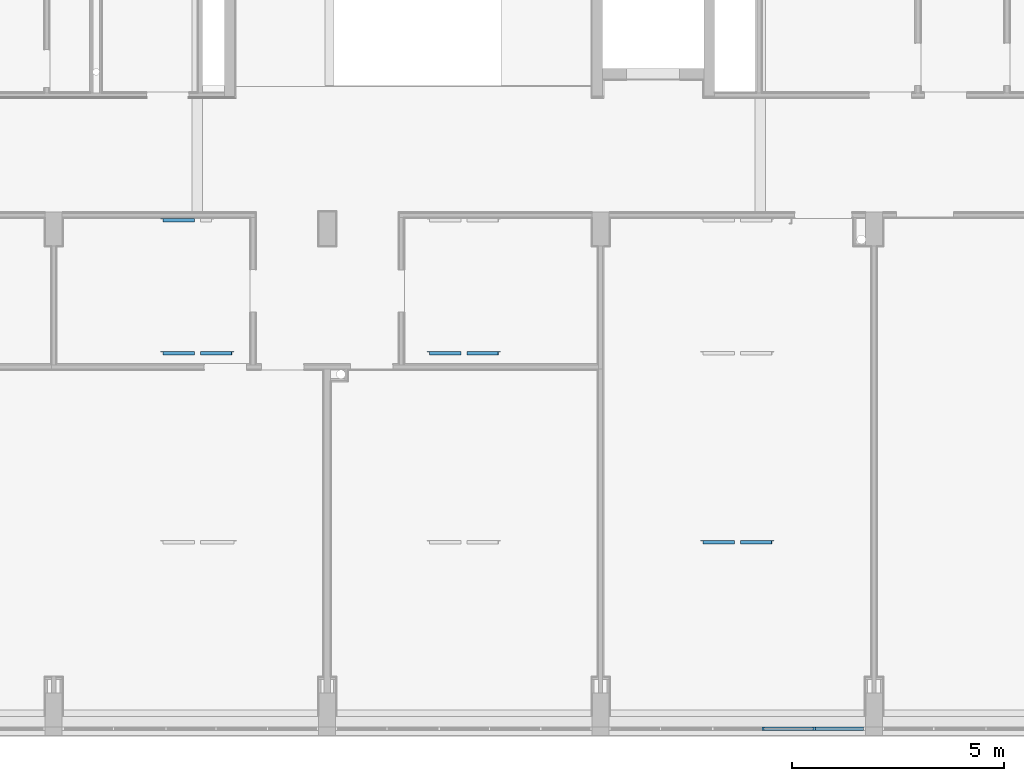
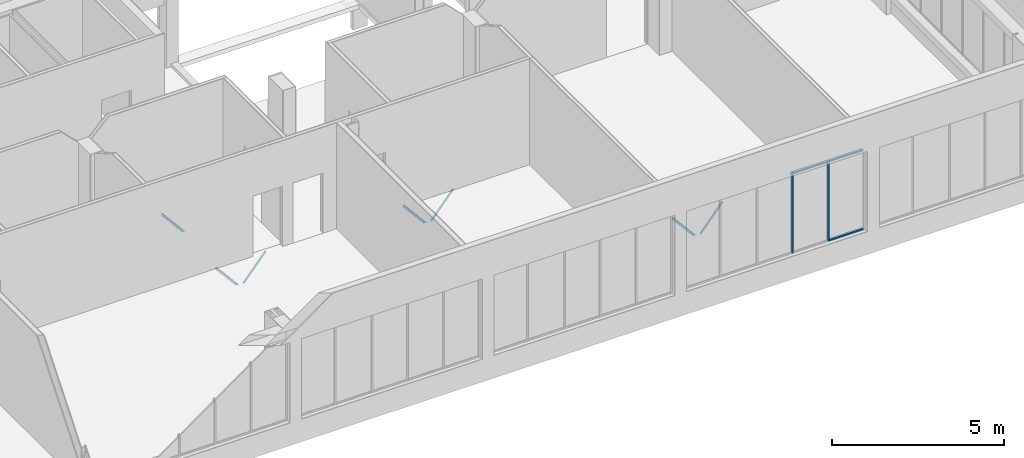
# One storey, part 8 of 29: 7 beams, 5 members, 1 element without a shape of its own.
"""IFC2X3 building model written with IfcOpenShell, lengths in centimetres."""

import ifcopenshell
import ifcopenshell.guid

model = None  # the IFC model being written
_history = None  # IfcOwnerHistory: only IFC2X3 demands one
_inside = {}  # id of a spatial element -> (the spatial element, [elements in it])
_under = {}  # id of a project, library or spatial element -> (it, [spatial elements below it])
_declared = {}  # id of a project -> (the project, [libraries it declares])
_typed = {}  # id of a type object -> (the type object, [elements of that type])
_made_of = {}  # id of a material, layer set ... -> (it, [elements and type objects made of it])


def new_model(schema):
    """Start an empty IFC model of exactly this schema.

    Asked for "IFC4X3", IfcOpenShell would pick the latest addendum, in which some entities
    have other attributes; the version numbers below select the first issue.
    IFC2X3 requires an IfcOwnerHistory on every rooted entity: one is made here for all.
    """
    global model, _history
    if schema == "IFC4X3":
        model = ifcopenshell.file(schema_version=(4, 3, 0, 0))
    else:
        model = ifcopenshell.file(schema=schema)
    _inside.clear()
    _under.clear()
    _declared.clear()
    _typed.clear()
    _made_of.clear()
    _history = None
    if model.schema == "IFC2X3":
        org = make("IfcOrganization", Name="unknown")
        user = make(
            "IfcPersonAndOrganization",
            ThePerson=make("IfcPerson", FamilyName="unknown"),
            TheOrganization=org,
        )
        app = make(
            "IfcApplication",
            ApplicationDeveloper=org,
            Version="unknown",
            ApplicationFullName="unknown",
            ApplicationIdentifier="unknown",
        )
        _history = make(
            "IfcOwnerHistory",
            OwningUser=user,
            OwningApplication=app,
            ChangeAction="ADDED",
            CreationDate=0,
        )
    return model


def make(cls, **values):
    """One entity of the class cls with the attributes given. An attribute that is None is left unset."""
    return model.create_entity(
        cls, **{name: value for name, value in values.items() if value is not None}
    )


def entity(cls, *values):
    """Any entity or typed value of the class cls, its attributes in the order of the schema. None: left unset."""
    e = model.create_entity(cls)
    for i, value in enumerate(values):
        if value is not None:
            e[i] = value
    return e


def rooted(cls, **values):
    """An entity with a GlobalId (a new one), such as an element, a storey or a relation."""
    return make(cls, GlobalId=ifcopenshell.guid.new(), OwnerHistory=_history, **values)


def si_unit(unit_type, name, prefix=None):
    """IfcSIUnit, for example si_unit("LENGTHUNIT", "METRE", prefix="MILLI")."""
    return make("IfcSIUnit", UnitType=unit_type, Prefix=prefix, Name=name)


def converted_unit(unit_type, name, factor, base, dimensions=None, offset=None):
    """IfcConversionBasedUnit, such as the inch: factor (a typed value) times the base unit."""
    return make(
        "IfcConversionBasedUnit"
        if offset is None
        else "IfcConversionBasedUnitWithOffset",
        ConversionOffset=offset,
        Dimensions=None
        if dimensions is None
        else entity("IfcDimensionalExponents", *dimensions),
        UnitType=unit_type,
        Name=name,
        ConversionFactor=make(
            "IfcMeasureWithUnit", ValueComponent=factor, UnitComponent=base
        ),
    )


def derived_unit(unit_type, elements):
    """IfcDerivedUnit: a product of units, each with its exponent."""
    return make(
        "IfcDerivedUnit",
        Elements=[
            make("IfcDerivedUnitElement", Unit=unit, Exponent=power)
            for unit, power in elements
        ],
        UnitType=unit_type,
    )


def assignment(units):
    """IfcUnitAssignment: the units of a project."""
    return None if units is None else make("IfcUnitAssignment", Units=units)


def point(xyz):
    """IfcCartesianPoint."""
    return None if xyz is None else make("IfcCartesianPoint", Coordinates=xyz)


def direction(xyz):
    """IfcDirection."""
    return None if xyz is None else make("IfcDirection", DirectionRatios=xyz)


def frame(location, z_axis=None, x_axis=None):
    """IfcAxis2Placement3D, a coordinate frame: its origin and axes. An axis left out is left unset."""
    return make(
        "IfcAxis2Placement3D",
        Location=point(location),
        Axis=direction(z_axis),
        RefDirection=direction(x_axis),
    )


def frame_2d(location, x_axis=None):
    """IfcAxis2Placement2D, a coordinate frame in the plane: its origin and x axis."""
    return make(
        "IfcAxis2Placement2D", Location=point(location), RefDirection=direction(x_axis)
    )


def origin():
    """The frame at (0, 0, 0) with its axes left unset."""
    return frame((0.0, 0.0, 0.0))


def origin_2d_with_axis():
    """The frame at (0, 0) in the plane with the x axis (1, 0) written out."""
    return frame_2d((0.0, 0.0), x_axis=(1.0, 0.0))


def place(relative_to, where):
    """IfcLocalPlacement: puts the frame where relative to a parent placement (None: the world)."""
    return make(
        "IfcLocalPlacement", PlacementRelTo=relative_to, RelativePlacement=where
    )


def context(
    kind, dimensions, precision=None, world=None, true_north=None, identifier=None
):
    """IfcGeometricRepresentationContext, for example the 3D "Model" context."""
    return make(
        "IfcGeometricRepresentationContext",
        ContextIdentifier=identifier,
        ContextType=kind,
        CoordinateSpaceDimension=dimensions,
        Precision=precision,
        WorldCoordinateSystem=world,
        TrueNorth=true_north,
    )


def subcontext(parent, identifier, kind, view, scale=None):
    """IfcGeometricRepresentationSubContext, for example "Body" below "Model"."""
    return make(
        "IfcGeometricRepresentationSubContext",
        ContextIdentifier=identifier,
        ContextType=kind,
        ParentContext=parent,
        TargetScale=scale,
        TargetView=view,
    )


def project(units=None, contexts=None):
    """IfcProject with its units and contexts."""
    return rooted(
        "IfcProject",
        Name="project",
        RepresentationContexts=contexts,
        UnitsInContext=assignment(units),
    )


def spatial(cls, under=None, at=None, **own):
    """A site, building, storey or space (cls), placed at a placement, below another one or the project."""
    s = rooted(cls, ObjectPlacement=at, **own)
    if under is not None:
        _under.setdefault(under.id(), (under, []))[1].append(s)
    return s


def polyline(points):
    """IfcPolyline through the points."""
    return make("IfcPolyline", Points=[point(p) for p in points])


def circle_curve(where, radius):
    """IfcCircle in the frame where."""
    return make("IfcCircle", Position=where, Radius=radius)


def parameter(value):
    """IfcParameterValue: where a trimmed curve begins or ends, as a parameter of its basis curve."""
    return model.create_entity("IfcParameterValue", value)


def trimmed(basis, trim1, trim2, sense, master):
    """IfcTrimmedCurve: the piece of a basis curve between two trims."""
    return make(
        "IfcTrimmedCurve",
        BasisCurve=basis,
        Trim1=trim1,
        Trim2=trim2,
        SenseAgreement=sense,
        MasterRepresentation=master,
    )


def segment(curve, same_sense, transition):
    """IfcCompositeCurveSegment."""
    return make(
        "IfcCompositeCurveSegment",
        Transition=transition,
        SameSense=same_sense,
        ParentCurve=curve,
    )


def composite_curve(segments, self_intersect=None):
    """IfcCompositeCurve: segments joined end to end."""
    return make("IfcCompositeCurve", Segments=segments, SelfIntersect=self_intersect)


def profile(cls, at=None, kind="AREA", **sizes):
    """A parametric profile (cls). Its sizes go by their IFC names, for example OverallWidth=200.0."""
    return make(cls, ProfileType=kind, Position=at, **sizes)


def rectangle(**sizes):
    """IfcRectangleProfileDef."""
    return profile("IfcRectangleProfileDef", **sizes)


def outline(outer, holes=None, kind="AREA"):
    """IfcArbitraryClosedProfileDef: a profile drawn as a closed curve; with holes, ...WithVoids."""
    if holes is None:
        return make("IfcArbitraryClosedProfileDef", ProfileType=kind, OuterCurve=outer)
    return make(
        "IfcArbitraryProfileDefWithVoids",
        ProfileType=kind,
        OuterCurve=outer,
        InnerCurves=holes,
    )


def extrude(swept, where, along, depth):
    """IfcExtrudedAreaSolid: the profile swept, set in the frame where, extruded along a direction by depth."""
    return make(
        "IfcExtrudedAreaSolid",
        SweptArea=swept,
        Position=where,
        ExtrudedDirection=direction(along),
        Depth=depth,
    )


def clip(a, b, op="DIFFERENCE"):
    """IfcBooleanClippingResult: the solid a cut by the half space b."""
    return make(
        "IfcBooleanClippingResult", Operator=op, FirstOperand=a, SecondOperand=b
    )


def halfspace(plane, agree):
    """IfcHalfSpaceSolid: all space on one side of the plane z = 0 of the frame plane."""
    return make(
        "IfcHalfSpaceSolid",
        BaseSurface=make("IfcPlane", Position=plane),
        AgreementFlag=agree,
    )


def shape(context_of_items, identifier, shape_type, items):
    """IfcShapeRepresentation: the items that make up one representation, for example the "Body"."""
    return make(
        "IfcShapeRepresentation",
        ContextOfItems=context_of_items,
        RepresentationIdentifier=identifier,
        RepresentationType=shape_type,
        Items=items,
    )


def source(mapping_origin, context_of_items, identifier, shape_type, items):
    """IfcRepresentationMap: a shape defined once, which mapped items show again and again."""
    return make(
        "IfcRepresentationMap",
        MappingOrigin=mapping_origin,
        MappedRepresentation=shape(context_of_items, identifier, shape_type, items),
    )


def transform(
    local_origin,
    x_axis=None,
    y_axis=None,
    z_axis=None,
    scale=None,
    scale2=None,
    scale3=None,
    uniform=True,
):
    """IfcCartesianTransformationOperator3D, or its non-uniform kind. x_axis, y_axis, z_axis: its Axis1, 2, 3."""
    if uniform:
        return make(
            "IfcCartesianTransformationOperator3D",
            Axis1=direction(x_axis),
            Axis2=direction(y_axis),
            LocalOrigin=point(local_origin),
            Scale=scale,
            Axis3=direction(z_axis),
        )
    return make(
        "IfcCartesianTransformationOperator3DnonUniform",
        Axis1=direction(x_axis),
        Axis2=direction(y_axis),
        LocalOrigin=point(local_origin),
        Scale=scale,
        Axis3=direction(z_axis),
        Scale2=scale2,
        Scale3=scale3,
    )


def mapped(mapping_source, mapping_target):
    """IfcMappedItem: shows the shape of a source again, moved by a transform."""
    return make(
        "IfcMappedItem", MappingSource=mapping_source, MappingTarget=mapping_target
    )


def material(Name=None, Category=None):
    """IfcMaterial."""
    return make("IfcMaterial", Name=Name, Category=Category)


def made_of(thing, what):
    """Note that an element or type object is made of a material, layer set ...; save() writes the relation."""
    if what is not None:
        _made_of.setdefault(what.id(), (what, []))[1].append(thing)
    return thing


def type_object(cls, material=None, **own):
    """A type object (cls), such as IfcWallType, which elements share."""
    return made_of(rooted(cls, **own), material)


def type_shapes(of_type, sources):
    """Give a type object the sources (RepresentationMaps) that its elements show as mapped items."""
    of_type.RepresentationMaps = sources


def element(
    cls,
    number,
    at=None,
    inside=None,
    cuts=None,
    type_object=None,
    material=None,
    context=None,
    identifier="Body",
    shape_type=None,
    held_by="IfcProductDefinitionShape",
    body=None,
    shapes=None,
    **own,
):
    """One element of the class cls, such as IfcWall. Its Tag is "e" and its number.

    at: its placement. inside: the storey or other place that contains it. cuts: it is an
    opening in that element (IfcRelVoidsElement). A single representation is given by context,
    identifier, shape_type and body (its items); several are given by shapes. held_by: the class
    of the entity that holds the representations. save() writes the other relations.
    """
    e = rooted(cls, Tag="e%d" % number, ObjectPlacement=at, **own)
    if body is not None:
        shapes = [shape(context, identifier, shape_type, body)]
    if shapes is not None:
        e.Representation = make(held_by, Representations=shapes)
    if inside is not None:
        _inside.setdefault(inside.id(), (inside, []))[1].append(e)
    if cuts is not None:
        rooted(
            "IfcRelVoidsElement", RelatingBuildingElement=cuts, RelatedOpeningElement=e
        )
    if type_object is not None:
        _typed.setdefault(type_object.id(), (type_object, []))[1].append(e)
    return made_of(e, material)


def aggregate(whole, parts):
    """IfcRelAggregates: a whole, such as a stair, and the parts it consists of."""
    return rooted("IfcRelAggregates", RelatingObject=whole, RelatedObjects=parts)


def save(model, path):
    """Write the relations noted so far, then the file.

    IfcRelAggregates (storeys below a building ...), IfcRelContainedInSpatialStructure (elements
    in a storey), IfcRelDefinesByType, IfcRelAssociatesMaterial and IfcRelDeclares: one each for
    every whole, place, type object, material and project.
    """
    for whole, parts in _under.values():
        aggregate(whole, parts)
    for where, things in _inside.values():
        rooted(
            "IfcRelContainedInSpatialStructure",
            RelatedElements=things,
            RelatingStructure=where,
        )
    for kind, things in _typed.values():
        rooted("IfcRelDefinesByType", RelatedObjects=things, RelatingType=kind)
    for what, things in _made_of.values():
        rooted("IfcRelAssociatesMaterial", RelatedObjects=things, RelatingMaterial=what)
    for by, libraries in _declared.values():
        rooted("IfcRelDeclares", RelatingContext=by, RelatedDefinitions=libraries)
    model.write(path)


model = new_model("IFC2X3")

# Units and contexts
model_context = context("Model", 3, precision=0.001, world=origin(), true_north=direction((6.12303176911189e-17, 1.0)))
body_context = subcontext(model_context, "Body", "Model", "MODEL_VIEW")
ifc_project = project(units=[si_unit("LENGTHUNIT", "METRE", prefix="CENTI"), si_unit("AREAUNIT", "SQUARE_METRE"), si_unit("VOLUMEUNIT", "CUBIC_METRE"), converted_unit("PLANEANGLEUNIT", "DEGREE", entity("IfcRatioMeasure", 0.0174532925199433), si_unit("PLANEANGLEUNIT", "RADIAN"), dimensions=[0, 0, 0, 0, 0, 0, 0]), si_unit("MASSUNIT", "GRAM", prefix="KILO"), derived_unit("MASSDENSITYUNIT", [(si_unit("MASSUNIT", "GRAM", prefix="KILO"), 1), (si_unit("LENGTHUNIT", "METRE"), -3)]), derived_unit("MOMENTOFINERTIAUNIT", [(si_unit("LENGTHUNIT", "METRE"), 4)]), si_unit("TIMEUNIT", "SECOND"), si_unit("FREQUENCYUNIT", "HERTZ"), si_unit("THERMODYNAMICTEMPERATUREUNIT", "DEGREE_CELSIUS"), derived_unit("THERMALTRANSMITTANCEUNIT", [(si_unit("MASSUNIT", "GRAM", prefix="KILO"), 1), (si_unit("THERMODYNAMICTEMPERATUREUNIT", "KELVIN"), -1), (si_unit("TIMEUNIT", "SECOND"), -3)]), derived_unit("VOLUMETRICFLOWRATEUNIT", [(si_unit("LENGTHUNIT", "METRE"), 3), (si_unit("TIMEUNIT", "SECOND"), -1)]), si_unit("ELECTRICCURRENTUNIT", "AMPERE"), si_unit("ELECTRICVOLTAGEUNIT", "VOLT"), si_unit("POWERUNIT", "WATT"), si_unit("FORCEUNIT", "NEWTON", prefix="KILO"), si_unit("ILLUMINANCEUNIT", "LUX"), si_unit("LUMINOUSFLUXUNIT", "LUMEN"), si_unit("LUMINOUSINTENSITYUNIT", "CANDELA"), derived_unit("USERDEFINED", [(si_unit("MASSUNIT", "GRAM", prefix="KILO"), -1), (si_unit("LENGTHUNIT", "METRE"), -2), (si_unit("TIMEUNIT", "SECOND"), 3), (si_unit("LUMINOUSFLUXUNIT", "LUMEN"), 1)]), derived_unit("LINEARVELOCITYUNIT", [(si_unit("LENGTHUNIT", "METRE"), 1), (si_unit("TIMEUNIT", "SECOND"), -1)]), si_unit("PRESSUREUNIT", "PASCAL"), derived_unit("USERDEFINED", [(si_unit("LENGTHUNIT", "METRE"), -2), (si_unit("MASSUNIT", "GRAM", prefix="KILO"), 1), (si_unit("TIMEUNIT", "SECOND"), -2)]), derived_unit("LINEARFORCEUNIT", [(si_unit("MASSUNIT", "GRAM", prefix="KILO"), 1), (si_unit("LENGTHUNIT", "METRE"), 1), (si_unit("TIMEUNIT", "SECOND"), -2), (si_unit("LENGTHUNIT", "METRE"), -1)]), derived_unit("PLANARFORCEUNIT", [(si_unit("MASSUNIT", "GRAM", prefix="KILO"), 1), (si_unit("LENGTHUNIT", "METRE"), 1), (si_unit("TIMEUNIT", "SECOND"), -2), (si_unit("LENGTHUNIT", "METRE"), -2)])], contexts=[model_context])

# Site, building, storey
site_placement = place(None, origin())
site = spatial("IfcSite", under=ifc_project, at=site_placement, Name="Default", CompositionType="ELEMENT")
building_placement = place(site_placement, origin())
building = spatial("IfcBuilding", under=site, at=building_placement, CompositionType="ELEMENT")
storey_placement = place(building_placement, frame((0.0, 0.0, 545.0)))
storey = spatial("IfcBuildingStorey", under=building, at=storey_placement, Name="Poziom 1K +5,45", CompositionType="ELEMENT", Elevation=544.999999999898)

# Curtain wall, members
curtain_wall_type = type_object("IfcCurtainWallType", PredefinedType="NOTDEFINED")
curtain_wall_placement = place(storey_placement, frame((0.0, 0.0, -545.0)))
curtain_wall = element("IfcCurtainWall", 1, at=curtain_wall_placement, inside=storey, type_object=curtain_wall_type)
ifc_material_1 = material(Name="Aluminium")
member_type_1 = type_object("IfcMemberType", Name="Prostokątny szpros:50 x 80mm", PredefinedType="MULLION", material=ifc_material_1)
shared_shape_1 = source(origin(), body_context, "Body", "SweptSolid", [
    extrude(rectangle(XDim=8.0, YDim=5.0, at=origin_2d_with_axis()), frame((-2.5, 0.0, -113.500173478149), z_axis=(0.0, 0.0, 1.0), x_axis=(0.0, -1.0, 0.0)), (0.0, 0.0, 1.0), 113.500173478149),
])
type_shapes(member_type_1, [shared_shape_1])
member_1_placement = place(curtain_wall_placement, frame((285.734879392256, 251.127657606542, 910.0), z_axis=(1.0, 0.0, 0.0), x_axis=(0.0, 0.0, 1.0)))
member_1 = element("IfcMember", 2, at=member_1_placement, type_object=member_type_1, Name="Prostokątny szpros:50 x 80mm", ObjectType="Prostokątny szpros:50 x 80mm", context=body_context, shape_type="MappedRepresentation", body=[
    mapped(shared_shape_1, transform((0.0, 0.0, 0.0), scale=1.0)),
])
member_type_2 = type_object("IfcMemberType", Name="Prostokątny szpros:50 x 80mm", PredefinedType="MULLION", material=ifc_material_1)
shared_shape_2 = source(origin(), body_context, "Body", "SweptSolid", [
    extrude(rectangle(XDim=8.0, YDim=5.0, at=origin_2d_with_axis()), frame((-2.5, 0.0, -113.500173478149), z_axis=(0.0, 0.0, 1.0), x_axis=(0.0, -1.0, 0.0)), (0.0, 0.0, 1.0), 113.500173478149),
])
type_shapes(member_type_2, [shared_shape_2])
member_2_placement = place(curtain_wall_placement, frame((172.237784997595, 251.127657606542, 625.0), z_axis=(-1.0, 0.0, 0.0), x_axis=(0.0, 0.0, -1.0)))
member_2 = element("IfcMember", 3, at=member_2_placement, type_object=member_type_2, Name="Prostokątny szpros:50 x 80mm", ObjectType="Prostokątny szpros:50 x 80mm", context=body_context, shape_type="MappedRepresentation", body=[
    mapped(shared_shape_2, transform((0.0, 0.0, 0.0), scale=1.0)),
])
member_type_3 = type_object("IfcMemberType", Name="Prostokątny szpros:50 x 80mm", PredefinedType="MULLION", material=ifc_material_1)
shared_shape_3 = source(origin(), body_context, "Body", "SweptSolid", [
    extrude(rectangle(XDim=8.0, YDim=5.0, at=origin_2d_with_axis()), frame((-2.5, 0.0, -116.002333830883), z_axis=(0.0, 0.0, 1.0), x_axis=(0.0, -1.0, 0.0)), (0.0, 0.0, 1.0), 116.002333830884),
])
type_shapes(member_type_3, [shared_shape_3])
member_3_placement = place(curtain_wall_placement, frame((167.237784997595, 251.127657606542, 910.0), z_axis=(1.0, 0.0, 0.0), x_axis=(0.0, 0.0, 1.0)))
member_3 = element("IfcMember", 4, at=member_3_placement, type_object=member_type_3, Name="Prostokątny szpros:50 x 80mm", ObjectType="Prostokątny szpros:50 x 80mm", context=body_context, shape_type="MappedRepresentation", body=[
    mapped(shared_shape_3, transform((0.0, 0.0, 0.0), scale=1.0)),
])
member_type_4 = type_object("IfcMemberType", Name="Prostokątny szpros:50 x 80mm", PredefinedType="MULLION", material=ifc_material_1)
shared_shape_4 = source(origin(), body_context, "Body", "SweptSolid", [
    extrude(rectangle(XDim=8.0, YDim=5.0, at=origin_2d_with_axis()), frame((0.0, 0.0, -285.0), z_axis=(0.0, 0.0, 1.0), x_axis=(0.0, -1.0, 0.0)), (0.0, 0.0, 1.0), 284.99999999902),
])
type_shapes(member_type_4, [shared_shape_4])
member_4_placement = place(curtain_wall_placement, frame((48.7377850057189, 251.127657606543, 625.0), z_axis=(0.0, 0.0, -1.0), x_axis=(1.0, 0.0, 0.0)))
member_4 = element("IfcMember", 5, at=member_4_placement, type_object=member_type_4, Name="Prostokątny szpros:50 x 80mm", ObjectType="Prostokątny szpros:50 x 80mm", context=body_context, shape_type="MappedRepresentation", body=[
    mapped(shared_shape_4, transform((0.0, 0.0, 0.0), scale=1.0)),
])
member_5_placement = place(curtain_wall_placement, frame((169.737784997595, 251.127657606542, 625.0), z_axis=(0.0, 0.0, -1.0), x_axis=(1.0, 0.0, 0.0)))
member_5 = element("IfcMember", 6, at=member_5_placement, type_object=member_type_4, Name="Prostokątny szpros:50 x 80mm", ObjectType="Prostokątny szpros:50 x 80mm", context=body_context, shape_type="MappedRepresentation", body=[
    mapped(shared_shape_4, transform((0.0, 0.0, 0.0), scale=1.0)),
])
aggregate(curtain_wall, [member_1, member_4, member_3, member_2, member_5])

# Beams
ifc_material_2 = material(Name="Stal konstrukcyjna - S235")
beam_type = type_object("IfcBeamType", Name="Równoramienne L:L80x8", PredefinedType="NOTDEFINED")
beam_1_placement = place(storey_placement, frame((-575.996690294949, 1138.86744980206, -13.5446969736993), z_axis=(0.765076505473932, 0.0, -0.64393939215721), x_axis=(-0.64393939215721, 0.0, -0.765076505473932)))
element("IfcBeam", 7, at=beam_1_placement, inside=storey, type_object=beam_type, material=ifc_material_2, Name="Równoramienne L:L80x8", ObjectType="Równoramienne L:L80x8", context=body_context, shape_type="SweptSolid", body=[
    clip(extrude(outline(composite_curve([segment(polyline([(2.72222222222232, -4.97777777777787), (3.0222222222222, -4.97777777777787)]), True, "CONTINUOUS"), segment(polyline([(3.02222222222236, -4.97777777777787), (3.02222222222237, 3.02222222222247)]), True, "CONTINUOUS"), segment(polyline([(3.02222222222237, 3.02222222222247), (-4.97777777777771, 3.02222222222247)]), True, "CONTINUOUS"), segment(polyline([(-4.97777777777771, 3.02222222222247), (-4.97777777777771, 2.72222222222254)]), True, "CONTINUOUS"), segment(trimmed(circle_curve(frame_2d((-4.47777777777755, 2.72222222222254), x_axis=(-1.0, 0.0)), 0.500000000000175), [parameter(0.0)], [parameter(89.9999999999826)], True, "PARAMETER"), True, "CONTINUOUS"), segment(polyline([(-4.47777777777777, 2.22222222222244), (1.22222222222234, 2.22222222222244)]), True, "CONTINUOUS"), segment(trimmed(circle_curve(frame_2d((1.22222222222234, 1.22222222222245), x_axis=(0.0, 1.0)), 0.999999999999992), [parameter(270.0)], [parameter(0.0)], True, "PARAMETER"), False, "CONTINUOUS"), segment(polyline([(2.22222222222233, 1.22222222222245), (2.22222222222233, -4.47777777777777)]), True, "CONTINUOUS"), segment(trimmed(circle_curve(frame_2d((2.72222222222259, -4.47777777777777), x_axis=(-1.0, 0.0)), 0.500000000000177), [parameter(0.0)], [parameter(89.9999999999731)], True, "PARAMETER"), True, "CONTINUOUS")], self_intersect=False)), frame((0.00135307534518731, -0.76222222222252, 3.02222222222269), z_axis=(1.0, 0.0, 0.0), x_axis=(0.0, 0.0, -1.0)), (0.0, 0.0, 1.0), 114.45), halfspace(frame((109.986095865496, -845.739997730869, 8.24227437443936), z_axis=(0.765076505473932, 0.0, 0.64393939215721), x_axis=(0.0, 1.0, 0.0)), False)),
])
beam_2_placement = place(storey_placement, frame((-737.533508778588, 1138.86744980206, -13.5446969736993), z_axis=(0.765076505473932, 0.0, 0.64393939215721), x_axis=(0.64393939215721, 0.0, -0.765076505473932)))
element("IfcBeam", 8, at=beam_2_placement, inside=storey, type_object=beam_type, material=ifc_material_2, Name="Równoramienne L:L80x8", ObjectType="Równoramienne L:L80x8", context=body_context, shape_type="SweptSolid", body=[
    clip(extrude(outline(composite_curve([segment(polyline([(-3.02222222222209, -4.97777777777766), (-2.72222222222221, -4.97777777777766)]), True, "CONTINUOUS"), segment(trimmed(circle_curve(frame_2d((-2.72222222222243, -4.47777777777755), x_axis=(0.0, -1.0)), 0.500000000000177), [parameter(0.0)], [parameter(89.9999999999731)], True, "PARAMETER"), True, "CONTINUOUS"), segment(polyline([(-2.22222222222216, -4.47777777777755), (-2.22222222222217, 1.22222222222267)]), True, "CONTINUOUS"), segment(trimmed(circle_curve(frame_2d((-1.22222222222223, 1.22222222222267), x_axis=(-1.0, 0.0)), 0.999999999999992), [parameter(270.0)], [parameter(0.0)], True, "PARAMETER"), False, "CONTINUOUS"), segment(polyline([(-1.22222222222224, 2.22222222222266), (4.47777777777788, 2.22222222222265)]), True, "CONTINUOUS"), segment(trimmed(circle_curve(frame_2d((4.47777777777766, 2.72222222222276), x_axis=(0.0, -1.0)), 0.500000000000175), [parameter(0.0)], [parameter(89.9999999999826)], True, "PARAMETER"), True, "CONTINUOUS"), segment(polyline([(4.97777777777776, 2.72222222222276), (4.97777777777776, 3.02222222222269)]), True, "CONTINUOUS"), segment(polyline([(4.97777777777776, 3.02222222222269), (-3.02222222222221, 3.02222222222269)]), True, "CONTINUOUS"), segment(polyline([(-3.02222222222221, 3.02222222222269), (-3.0222222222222, -4.97777777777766)]), True, "CONTINUOUS")], self_intersect=False)), frame((0.00135307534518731, -0.762222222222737, -3.02222222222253), z_axis=(1.0, 0.0, 0.0), x_axis=(0.0, 0.0, -1.0)), (0.0, 0.0, 1.0), 114.45), halfspace(frame((117.713368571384, -845.739997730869, 0.938643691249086), z_axis=(0.765076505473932, 0.0, -0.64393939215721), x_axis=(0.0, 1.0, 0.0)), False)),
])
beam_3_placement = place(storey_placement, frame((-92.5326190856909, 692.867512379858, -13.5446969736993), z_axis=(0.765076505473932, 0.0, 0.64393939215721), x_axis=(0.64393939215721, 0.0, -0.765076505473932)))
element("IfcBeam", 9, at=beam_3_placement, inside=storey, type_object=beam_type, material=ifc_material_2, Name="Równoramienne L:L80x8", ObjectType="Równoramienne L:L80x8", context=body_context, shape_type="SweptSolid", body=[
    clip(extrude(outline(composite_curve([segment(polyline([(-3.02222222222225, -4.97777777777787), (-2.72222222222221, -4.97777777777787)]), True, "CONTINUOUS"), segment(trimmed(circle_curve(frame_2d((-2.7222222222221, -4.47777777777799), x_axis=(0.0, -1.0)), 0.499999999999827), [parameter(0.0)], [parameter(90.00000000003)], True, "PARAMETER"), True, "CONTINUOUS"), segment(polyline([(-2.22222222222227, -4.47777777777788), (-2.22222222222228, 1.22222222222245)]), True, "CONTINUOUS"), segment(trimmed(circle_curve(frame_2d((-1.22222222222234, 1.22222222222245), x_axis=(-1.0, 0.0)), 0.999999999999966), [parameter(269.999999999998)], [parameter(0.0)], True, "PARAMETER"), False, "CONTINUOUS"), segment(polyline([(-1.22222222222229, 2.22222222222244), (4.47777777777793, 2.22222222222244)]), True, "CONTINUOUS"), segment(trimmed(circle_curve(frame_2d((4.47777777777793, 2.72222222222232), x_axis=(0.0, -1.0)), 0.499999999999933), [parameter(0.0)], [parameter(90.0000000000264)], True, "PARAMETER"), True, "CONTINUOUS"), segment(polyline([(4.97777777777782, 2.72222222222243), (4.97777777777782, 3.02222222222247)]), True, "CONTINUOUS"), segment(polyline([(4.97777777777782, 3.02222222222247), (-3.02222222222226, 3.02222222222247)]), True, "CONTINUOUS"), segment(polyline([(-3.02222222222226, 3.02222222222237), (-3.02222222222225, -4.97777777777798)]), True, "CONTINUOUS")], self_intersect=False)), frame((0.00135307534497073, -0.76222222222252, -3.0222222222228), z_axis=(1.0, 0.0, 0.0), x_axis=(0.0, 0.0, -1.0)), (0.0, 0.0, 1.0), 114.44), halfspace(frame((117.712807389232, -399.74006030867, 0.937976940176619), z_axis=(0.765076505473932, 0.0, -0.64393939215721), x_axis=(0.0, 1.0, 0.0)), False)),
])
beam_4_placement = place(storey_placement, frame((69.0024564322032, 692.867512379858, -13.5446969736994), z_axis=(0.765076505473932, 0.0, -0.64393939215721), x_axis=(-0.64393939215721, 0.0, -0.765076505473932)))
element("IfcBeam", 10, at=beam_4_placement, inside=storey, type_object=beam_type, material=ifc_material_2, Name="Równoramienne L:L80x8", ObjectType="Równoramienne L:L80x8", context=body_context, shape_type="SweptSolid", body=[
    clip(extrude(outline(composite_curve([segment(polyline([(2.72222222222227, -4.97777777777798), (3.02222222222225, -4.97777777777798)]), True, "CONTINUOUS"), segment(polyline([(3.02222222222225, -4.97777777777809), (3.02222222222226, 3.02222222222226)]), True, "CONTINUOUS"), segment(polyline([(3.02222222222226, 3.02222222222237), (-4.97777777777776, 3.02222222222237)]), True, "CONTINUOUS"), segment(polyline([(-4.97777777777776, 3.02222222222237), (-4.97777777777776, 2.72222222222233)]), True, "CONTINUOUS"), segment(trimmed(circle_curve(frame_2d((-4.47777777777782, 2.72222222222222), x_axis=(-1.0, 0.0)), 0.499999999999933), [parameter(0.0)], [parameter(90.0000000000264)], True, "PARAMETER"), True, "CONTINUOUS"), segment(polyline([(-4.47777777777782, 2.22222222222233), (1.22222222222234, 2.22222222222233)]), True, "CONTINUOUS"), segment(trimmed(circle_curve(frame_2d((1.2222222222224, 1.22222222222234), x_axis=(0.0, 1.0)), 0.999999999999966), [parameter(269.999999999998)], [parameter(0.0)], True, "PARAMETER"), False, "CONTINUOUS"), segment(polyline([(2.22222222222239, 1.22222222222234), (2.22222222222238, -4.47777777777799)]), True, "CONTINUOUS"), segment(trimmed(circle_curve(frame_2d((2.72222222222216, -4.47777777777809), x_axis=(-1.0, 0.0)), 0.499999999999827), [parameter(0.0)], [parameter(90.00000000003)], True, "PARAMETER"), True, "CONTINUOUS")], self_intersect=False)), frame((0.00135307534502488, -0.762222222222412, 3.02222222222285), z_axis=(1.0, 0.0, 0.0), x_axis=(0.0, 0.0, -1.0)), (0.0, 0.0, 1.0), 114.44), halfspace(frame((109.985534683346, -399.74006030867, 8.24294112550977), z_axis=(0.765076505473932, 0.0, 0.64393939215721), x_axis=(0.0, 1.0, 0.0)), False)),
])
beam_5_placement = place(storey_placement, frame((-1366.03261912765, 1138.86744980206, -13.5446969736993), z_axis=(0.765076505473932, 0.0, 0.64393939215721), x_axis=(0.64393939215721, 0.0, -0.765076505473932)))
element("IfcBeam", 11, at=beam_5_placement, inside=storey, type_object=beam_type, material=ifc_material_2, Name="Równoramienne L:L80x8", ObjectType="Równoramienne L:L80x8", context=body_context, shape_type="SweptSolid", body=[
    clip(extrude(outline(composite_curve([segment(polyline([(-3.02222222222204, -4.97777777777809), (-2.72222222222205, -4.97777777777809)]), True, "CONTINUOUS"), segment(trimmed(circle_curve(frame_2d((-2.72222222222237, -4.47777777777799), x_axis=(0.0, -1.0)), 0.500000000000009), [parameter(0.0)], [parameter(90.0000000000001)], True, "PARAMETER"), True, "CONTINUOUS"), segment(polyline([(-2.22222222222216, -4.47777777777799), (-2.22222222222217, 1.22222222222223)]), True, "CONTINUOUS"), segment(trimmed(circle_curve(frame_2d((-1.22222222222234, 1.22222222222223), x_axis=(-1.0, 0.0)), 0.999999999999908), [parameter(270.0)], [parameter(0.0)], True, "PARAMETER"), False, "CONTINUOUS"), segment(polyline([(-1.22222222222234, 2.22222222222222), (4.47777777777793, 2.22222222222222)]), True, "CONTINUOUS"), segment(trimmed(circle_curve(frame_2d((4.47777777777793, 2.72222222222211), x_axis=(0.0, -1.0)), 0.499999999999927), [parameter(0.0)], [parameter(90.0000000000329)], True, "PARAMETER"), True, "CONTINUOUS"), segment(polyline([(4.97777777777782, 2.72222222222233), (4.97777777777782, 3.02222222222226)]), True, "CONTINUOUS"), segment(polyline([(4.97777777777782, 3.02222222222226), (-3.02222222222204, 3.02222222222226)]), True, "CONTINUOUS"), segment(polyline([(-3.02222222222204, 3.02222222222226), (-3.02222222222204, -4.97777777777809)]), True, "CONTINUOUS")], self_intersect=False)), frame((0.00135307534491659, -0.762222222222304, -3.02222222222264), z_axis=(1.0, 0.0, 0.0), x_axis=(0.0, 0.0, -1.0)), (0.0, 0.0, 1.0), 114.44), halfspace(frame((117.712807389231, -845.739997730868, 0.937976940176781), z_axis=(0.765076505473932, 0.0, -0.64393939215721), x_axis=(0.0, 1.0, 0.0)), False)),
])
beam_6_placement = place(storey_placement, frame((-1366.03261912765, 1451.86745207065, -13.5446969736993), z_axis=(0.765076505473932, 0.0, 0.64393939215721), x_axis=(0.64393939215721, 0.0, -0.765076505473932)))
element("IfcBeam", 12, at=beam_6_placement, inside=storey, type_object=beam_type, material=ifc_material_2, Name="Równoramienne L:L80x8", ObjectType="Równoramienne L:L80x8", context=body_context, shape_type="SweptSolid", body=[
    clip(extrude(outline(composite_curve([segment(polyline([(-3.02222222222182, -4.97777777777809), (-2.72222222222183, -4.97777777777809)]), True, "CONTINUOUS"), segment(trimmed(circle_curve(frame_2d((-2.72222222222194, -4.47777777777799), x_axis=(0.0, -1.0)), 0.500000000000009), [parameter(0.0)], [parameter(90.0000000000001)], True, "PARAMETER"), True, "CONTINUOUS"), segment(polyline([(-2.22222222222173, -4.47777777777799), (-2.22222222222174, 1.22222222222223)]), True, "CONTINUOUS"), segment(trimmed(circle_curve(frame_2d((-1.22222222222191, 1.22222222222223), x_axis=(-1.0, 0.0)), 0.999999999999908), [parameter(270.0)], [parameter(0.0)], True, "PARAMETER"), False, "CONTINUOUS"), segment(polyline([(-1.22222222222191, 2.22222222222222), (4.47777777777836, 2.22222222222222)]), True, "CONTINUOUS"), segment(trimmed(circle_curve(frame_2d((4.47777777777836, 2.72222222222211), x_axis=(0.0, -1.0)), 0.499999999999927), [parameter(0.0)], [parameter(90.0000000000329)], True, "PARAMETER"), True, "CONTINUOUS"), segment(polyline([(4.97777777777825, 2.72222222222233), (4.97777777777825, 3.02222222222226)]), True, "CONTINUOUS"), segment(polyline([(4.97777777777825, 3.02222222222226), (-3.02222222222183, 3.02222222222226)]), True, "CONTINUOUS"), segment(polyline([(-3.02222222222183, 3.02222222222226), (-3.02222222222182, -4.97777777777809)]), True, "CONTINUOUS")], self_intersect=False)), frame((0.00135307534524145, -0.762222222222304, -3.02222222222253), z_axis=(1.0, 0.0, 0.0), x_axis=(0.0, 0.0, -1.0)), (0.0, 0.0, 1.0), 114.44), halfspace(frame((117.712807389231, -1158.73999999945, 0.937976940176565), z_axis=(0.765076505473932, 0.0, -0.64393939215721), x_axis=(0.0, 1.0, 0.0)), False)),
])
beam_7_placement = place(storey_placement, frame((-1204.49754360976, 1138.86744980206, -13.5446969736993), z_axis=(0.765076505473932, 0.0, -0.64393939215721), x_axis=(-0.64393939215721, 0.0, -0.765076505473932)))
element("IfcBeam", 13, at=beam_7_placement, inside=storey, type_object=beam_type, material=ifc_material_2, Name="Równoramienne L:L80x8", ObjectType="Równoramienne L:L80x8", context=body_context, shape_type="SweptSolid", body=[
    clip(extrude(outline(composite_curve([segment(polyline([(2.72222222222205, -4.97777777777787), (3.02222222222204, -4.97777777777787)]), True, "CONTINUOUS"), segment(polyline([(3.02222222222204, -4.97777777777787), (3.02222222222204, 3.02222222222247)]), True, "CONTINUOUS"), segment(polyline([(3.02222222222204, 3.02222222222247), (-4.97777777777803, 3.02222222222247)]), True, "CONTINUOUS"), segment(polyline([(-4.97777777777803, 3.02222222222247), (-4.97777777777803, 2.72222222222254)]), True, "CONTINUOUS"), segment(trimmed(circle_curve(frame_2d((-4.47777777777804, 2.72222222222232), x_axis=(-1.0, 0.0)), 0.499999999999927), [parameter(0.0)], [parameter(90.0000000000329)], True, "PARAMETER"), True, "CONTINUOUS"), segment(polyline([(-4.47777777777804, 2.22222222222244), (1.22222222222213, 2.22222222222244)]), True, "CONTINUOUS"), segment(trimmed(circle_curve(frame_2d((1.22222222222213, 1.22222222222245), x_axis=(0.0, 1.0)), 0.999999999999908), [parameter(270.0)], [parameter(0.0)], True, "PARAMETER"), False, "CONTINUOUS"), segment(polyline([(2.22222222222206, 1.22222222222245), (2.22222222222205, -4.47777777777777)]), True, "CONTINUOUS"), segment(trimmed(circle_curve(frame_2d((2.72222222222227, -4.47777777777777), x_axis=(-1.0, 0.0)), 0.500000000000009), [parameter(0.0)], [parameter(90.0000000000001)], True, "PARAMETER"), True, "CONTINUOUS")], self_intersect=False)), frame((0.00135307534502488, -0.76222222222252, 3.02222222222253), z_axis=(1.0, 0.0, 0.0), x_axis=(0.0, 0.0, -1.0)), (0.0, 0.0, 1.0), 114.44), halfspace(frame((109.985534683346, -845.739792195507, 8.24294112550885), z_axis=(0.765076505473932, 0.0, 0.64393939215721), x_axis=(0.0, 1.0, 0.0)), False)),
])

save(model, "model.ifc")
